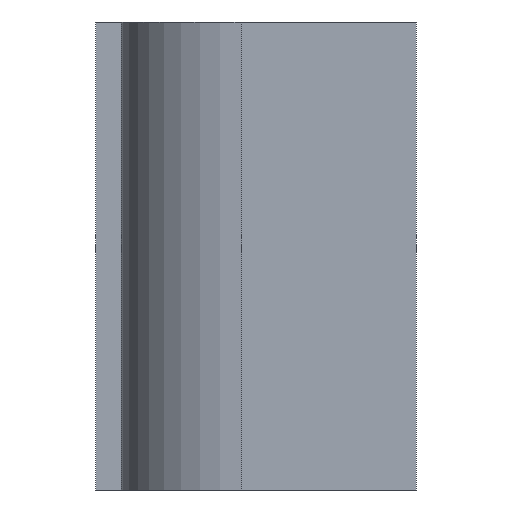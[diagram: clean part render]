
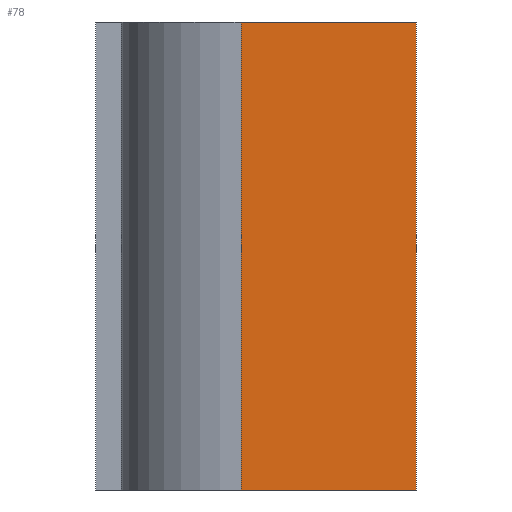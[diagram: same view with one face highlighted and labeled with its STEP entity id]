
A CAD part, left-side view. The second image highlights one B-rep face of the part: STEP entity #78.
In plain terms, the highlighted planar face has unit normal (-1, 0, 0).
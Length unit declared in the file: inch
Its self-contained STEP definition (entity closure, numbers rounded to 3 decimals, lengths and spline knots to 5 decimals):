
#1 = DIRECTION ( 'NONE',  ( 0., -1., 0. ) ) ;
#9 = LINE ( 'NONE', #227, #412 ) ;
#30 = VERTEX_POINT ( 'NONE', #435 ) ;
#39 = DIRECTION ( 'NONE',  ( 0., -1., 0. ) ) ;
#77 = CARTESIAN_POINT ( 'NONE',  ( -2.5, 0.374, -1. ) ) ;
#78 = ADVANCED_FACE ( 'NONE', ( #405 ), #275, .T. ) ;
#86 = CARTESIAN_POINT ( 'NONE',  ( -2.5, 0., -1. ) ) ;
#93 = EDGE_CURVE ( 'NONE', #374, #440, #362, .T. ) ;
#142 = AXIS2_PLACEMENT_3D ( 'NONE', #397, #277, #39 ) ;
#143 = EDGE_LOOP ( 'NONE', ( #153, #422, #410, #452 ) ) ;
#153 = ORIENTED_EDGE ( 'NONE', *, *, #363, .F. ) ;
#161 = CARTESIAN_POINT ( 'NONE',  ( -2.5, 0.374, -1. ) ) ;
#216 = VECTOR ( 'NONE', #1, 39.37008 ) ;
#227 = CARTESIAN_POINT ( 'NONE',  ( -2.5, 0., -1. ) ) ;
#261 = LINE ( 'NONE', #77, #265 ) ;
#265 = VECTOR ( 'NONE', #304, 39.37008 ) ;
#273 = CARTESIAN_POINT ( 'NONE',  ( -2.5, 0., 0. ) ) ;
#275 = PLANE ( 'NONE',  #142 ) ;
#277 = DIRECTION ( 'NONE',  ( -1., 0., 0. ) ) ;
#288 = EDGE_CURVE ( 'NONE', #374, #30, #261, .T. ) ;
#304 = DIRECTION ( 'NONE',  ( 0., 0., 1. ) ) ;
#309 = CARTESIAN_POINT ( 'NONE',  ( -2.5, 0.374, 0. ) ) ;
#355 = LINE ( 'NONE', #309, #216 ) ;
#362 = LINE ( 'NONE', #161, #387 ) ;
#363 = EDGE_CURVE ( 'NONE', #30, #418, #355, .T. ) ;
#373 = DIRECTION ( 'NONE',  ( 0., -1., 0. ) ) ;
#374 = VERTEX_POINT ( 'NONE', #393 ) ;
#387 = VECTOR ( 'NONE', #373, 39.37008 ) ;
#393 = CARTESIAN_POINT ( 'NONE',  ( -2.5, 0.374, -1. ) ) ;
#397 = CARTESIAN_POINT ( 'NONE',  ( -2.5, 0.374, -1. ) ) ;
#405 = FACE_OUTER_BOUND ( 'NONE', #143, .T. ) ;
#410 = ORIENTED_EDGE ( 'NONE', *, *, #93, .T. ) ;
#412 = VECTOR ( 'NONE', #477, 39.37008 ) ;
#418 = VERTEX_POINT ( 'NONE', #273 ) ;
#420 = EDGE_CURVE ( 'NONE', #440, #418, #9, .T. ) ;
#422 = ORIENTED_EDGE ( 'NONE', *, *, #288, .F. ) ;
#435 = CARTESIAN_POINT ( 'NONE',  ( -2.5, 0.374, 0. ) ) ;
#440 = VERTEX_POINT ( 'NONE', #86 ) ;
#452 = ORIENTED_EDGE ( 'NONE', *, *, #420, .T. ) ;
#477 = DIRECTION ( 'NONE',  ( 0., 0., 1. ) ) ;
